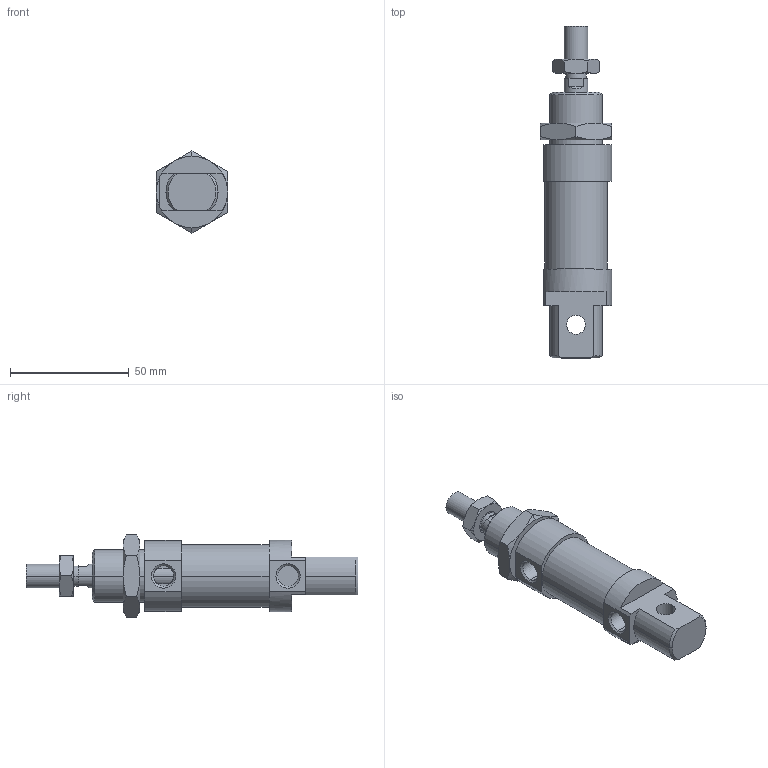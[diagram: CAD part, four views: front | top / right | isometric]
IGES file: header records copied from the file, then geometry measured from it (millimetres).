
Global section: file name: No Iges File Name specified; native system: AutoDesk Inventor R6.0; preprocessor: AutoDesk Inventor Iges Exporter R6.0; author: No Author specified; organization: No Organization specified; date: 20030407.191458; units: millimetre
Bounding box: 30 x 140 x 34.64 mm (x, y, z)
Volume: 60087.2 mm3; surface area: 17426 mm2
Topology: 4 solids, 4 shells, 124 faces, 281 edges, 170 vertices
Faces by surface type: plane 41, cone 38, bspline 21, cylinder 18, revolution 6
